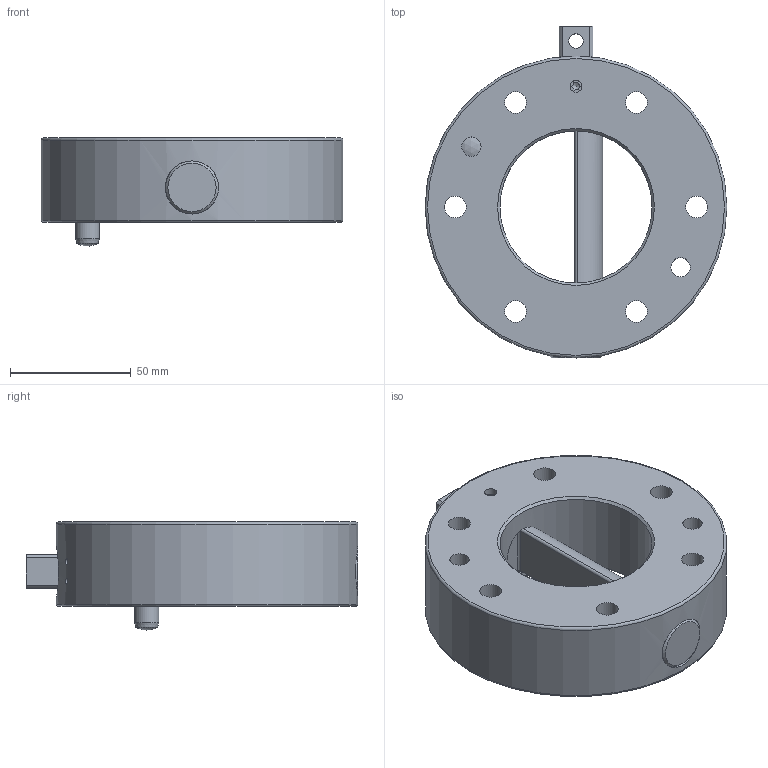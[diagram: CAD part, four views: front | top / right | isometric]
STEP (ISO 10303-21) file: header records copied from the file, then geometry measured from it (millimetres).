
FILE_DESCRIPTION(/* description */ (''),/* implementation_level */ '2;1');
FILE_NAME(/* name */ '\\dc01\daten\CAD\Standard\NEUE DATEN 2016\Daten\2 SWS\4 3-D CAD\125\G-SWS125-2O.stp',/* time_stamp */ '2017-01-20T09:19:25+01:00',/* author */ ('ysplieth'),/* organization */ (''),/* preprocessor_version */ 'ST-DEVELOPER v15.2',/* originating_system */ 'Autodesk Inventor 2014',/* authorisation */ '');
FILE_SCHEMA (('AUTOMOTIVE_DESIGN { 1 0 10303 214 3 1 1 }'));
Length unit declared in the file: millimetre
Products named in the file (1): G-SWS125-2O
Bounding box: 125 x 137.5 x 44.75 mm (x, y, z)
Volume: 311819.2 mm3; surface area: 51352.4 mm2
Topology: 1 solids, 1 shells, 93 faces, 220 edges, 140 vertices
Faces by surface type: cylinder 43, plane 30, cone 10, bspline 4, torus 4, sphere 2
Full cylindrical faces by diameter (mm): 2.459 x2, 4 x1, 4.917 x3, 6 x1, 8 x2, 9 x6, 10 x1, 15 x6, 22 x2, 63 x1, 125 x1
Entity records: 2938 total; most frequent: CARTESIAN_POINT 882, DIRECTION 398, ORIENTED_EDGE 334, AXIS2_PLACEMENT_3D 175, EDGE_CURVE 167, EDGE_LOOP 164, VERTEX_POINT 125, STYLED_ITEM 93
